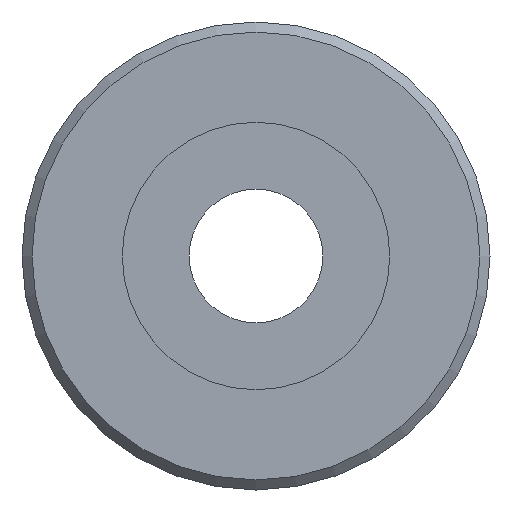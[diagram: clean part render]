
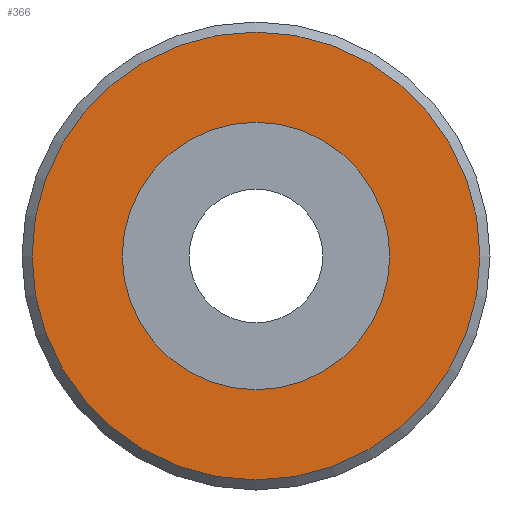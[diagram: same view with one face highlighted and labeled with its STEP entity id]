
A CAD part, front view. The second image highlights one B-rep face of the part: STEP entity #366.
In plain terms, the highlighted planar face has unit normal (0, -1, 0).
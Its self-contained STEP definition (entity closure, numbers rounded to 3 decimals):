
#22=FACE_BOUND('',#69,.T.);
#30=PLANE('',#422);
#41=FACE_OUTER_BOUND('',#68,.T.);
#68=EDGE_LOOP('',(#263));
#69=EDGE_LOOP('',(#264));
#129=CIRCLE('',#412,4.);
#135=CIRCLE('',#421,6.7);
#164=VERTEX_POINT('',#614);
#170=VERTEX_POINT('',#631);
#197=EDGE_CURVE('',#164,#164,#129,.T.);
#206=EDGE_CURVE('',#170,#170,#135,.T.);
#263=ORIENTED_EDGE('',*,*,#206,.F.);
#264=ORIENTED_EDGE('',*,*,#197,.T.);
#366=ADVANCED_FACE('',(#41,#22),#30,.T.);
#412=AXIS2_PLACEMENT_3D('',#615,#476,#477);
#421=AXIS2_PLACEMENT_3D('',#633,#497,#498);
#422=AXIS2_PLACEMENT_3D('',#634,#499,#500);
#476=DIRECTION('center_axis',(0.,1.,0.));
#477=DIRECTION('ref_axis',(1.,0.,0.));
#497=DIRECTION('center_axis',(0.,1.,0.));
#498=DIRECTION('ref_axis',(1.,0.,0.));
#499=DIRECTION('center_axis',(0.,-1.,0.));
#500=DIRECTION('ref_axis',(0.,0.,-1.));
#614=CARTESIAN_POINT('',(-4.,-18.3,0.));
#615=CARTESIAN_POINT('Origin',(0.,-18.3,0.));
#631=CARTESIAN_POINT('',(-6.7,-18.3,0.));
#633=CARTESIAN_POINT('Origin',(0.,-18.3,0.));
#634=CARTESIAN_POINT('Origin',(-7.,-18.3,0.));
